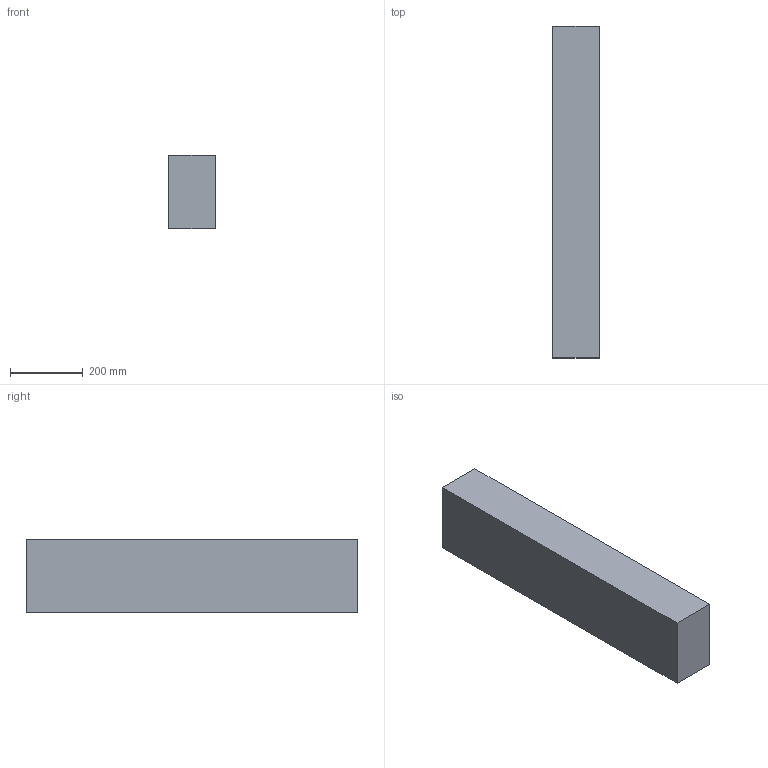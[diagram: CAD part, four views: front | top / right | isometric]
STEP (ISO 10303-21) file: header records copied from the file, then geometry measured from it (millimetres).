
FILE_DESCRIPTION(/* description */ (''),/* implementation_level */ '2;1');
FILE_NAME(/* name */ '5x8x36',/* time_stamp */ '2024-09-20T11:46:07-05:00',/* author */ (''),/* organization */ (''),/* preprocessor_version */ 'ST-DEVELOPER v19.2',/* originating_system */ 'Rhino 8.5',/* authorisation */ '');
FILE_SCHEMA (('CONFIG_CONTROL_DESIGN'));
Length unit declared in the file: inch
Products named in the file (1): Document
Bounding box: 127 x 914.4 x 203.2 mm (x, y, z)
Volume: 23597372.2 mm3; surface area: 655482.6 mm2
Topology: 1 solids, 1 shells, 6 faces, 12 edges, 8 vertices
Faces by surface type: plane 6
Entity records: 226 total; most frequent: CARTESIAN_POINT 40, ORIENTED_EDGE 24, EDGE_CURVE 12, B_SPLINE_CURVE_WITH_KNOTS 12, DIRECTION 10, VERTEX_POINT 8, AXIS2_PLACEMENT_3D 8, ORGANIZATION 7
